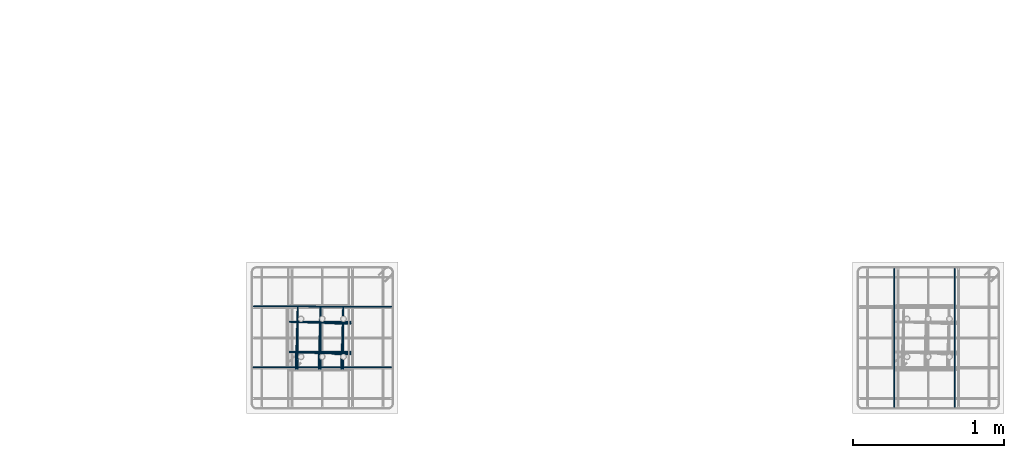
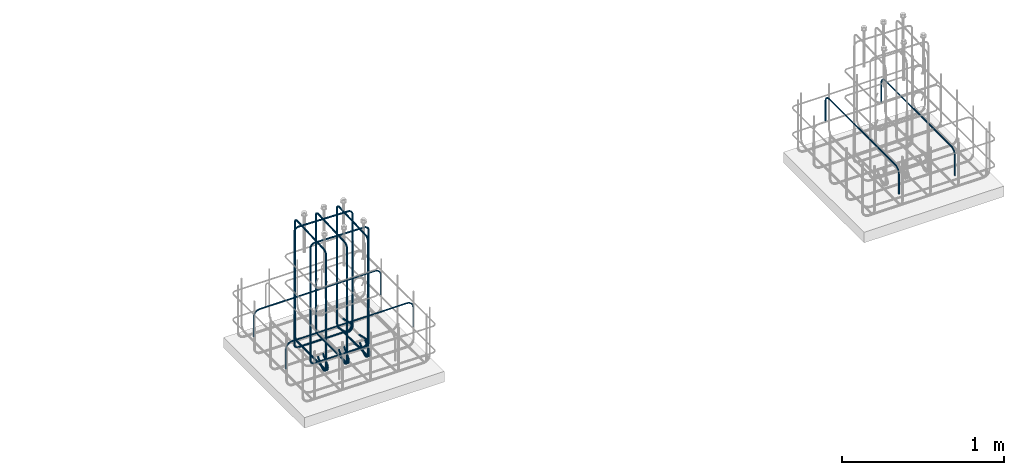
# One storey, part 8 of 12: 4 reinforcing bars.
"""IFC4X3_ADD2 building model written with IfcOpenShell, lengths in millimetres."""

from ifc_helpers import new_model, entity, si_unit, converted_unit, derived_unit, direction, frame, origin, place, context, subcontext, project, spatial, material, type_object, element, save


model = new_model("IFC4X3_ADD2")

# Units and contexts
model_context = context("Model", 3, precision=0.01, world=origin(), true_north=direction((6.123233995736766e-17, 1.0)))
plan_context = context("Plan", 3, precision=0.01, world=origin(), true_north=direction((6.123233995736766e-17, 1.0)))
body_context = subcontext(model_context, "Body", "Model", "MODEL_VIEW")
ifc_project = project(units=[si_unit("LENGTHUNIT", "METRE", prefix="MILLI"), converted_unit("PLANEANGLEUNIT", "DEGREE", entity("IfcPlaneAngleMeasure", 0.017453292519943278), si_unit("PLANEANGLEUNIT", "RADIAN"), dimensions=[0, 0, 0, 0, 0, 0, 0]), si_unit("AREAUNIT", "SQUARE_METRE"), si_unit("VOLUMEUNIT", "CUBIC_METRE"), derived_unit("THERMALTRANSMITTANCEUNIT", [(si_unit("MASSUNIT", "GRAM", prefix="KILO"), 1), (si_unit("THERMODYNAMICTEMPERATUREUNIT", "KELVIN"), -1), (si_unit("TIMEUNIT", "SECOND"), -3)]), derived_unit("USERDEFINED", [(si_unit("MASSUNIT", "GRAM", prefix="KILO"), 1), (si_unit("THERMODYNAMICTEMPERATUREUNIT", "KELVIN"), -1), (si_unit("TIMEUNIT", "SECOND"), -2)]), derived_unit("THERMALRESISTANCEUNIT", [(si_unit("MASSUNIT", "GRAM", prefix="KILO"), -1), (si_unit("TIMEUNIT", "SECOND"), 3), (si_unit("THERMODYNAMICTEMPERATUREUNIT", "KELVIN"), 1)]), si_unit("MASSUNIT", "GRAM", prefix="KILO"), derived_unit("MOMENTOFINERTIAUNIT", [(si_unit("LENGTHUNIT", "METRE"), 4)]), derived_unit("LINEARFORCEUNIT", [(si_unit("MASSUNIT", "GRAM", prefix="KILO"), 1), (si_unit("TIMEUNIT", "SECOND"), -2)]), derived_unit("WARPINGCONSTANTUNIT", [(si_unit("LENGTHUNIT", "METRE"), 6)]), si_unit("PRESSUREUNIT", "PASCAL"), derived_unit("MASSDENSITYUNIT", [(si_unit("MASSUNIT", "GRAM", prefix="KILO"), 1), (si_unit("LENGTHUNIT", "METRE"), -3)]), derived_unit("MODULUSOFELASTICITYUNIT", [(si_unit("MASSUNIT", "GRAM", prefix="KILO"), 1), (si_unit("TIMEUNIT", "SECOND"), -2), (si_unit("LENGTHUNIT", "METRE"), -1)]), derived_unit("THERMALEXPANSIONCOEFFICIENTUNIT", [(si_unit("THERMODYNAMICTEMPERATUREUNIT", "KELVIN"), -1)]), derived_unit("VAPORPERMEABILITYUNIT", [(si_unit("LENGTHUNIT", "METRE"), -1), (si_unit("TIMEUNIT", "SECOND"), 1)]), derived_unit("USERDEFINED", [(si_unit("MASSUNIT", "GRAM", prefix="KILO"), 1), (si_unit("TIMEUNIT", "SECOND"), -3), (si_unit("LENGTHUNIT", "METRE"), 3), (si_unit("ELECTRICCURRENTUNIT", "AMPERE"), -2)]), derived_unit("SPECIFICHEATCAPACITYUNIT", [(si_unit("THERMODYNAMICTEMPERATUREUNIT", "KELVIN"), -1), (si_unit("TIMEUNIT", "SECOND"), -2), (si_unit("LENGTHUNIT", "METRE"), 2)]), derived_unit("THERMALCONDUCTANCEUNIT", [(si_unit("MASSUNIT", "GRAM", prefix="KILO"), 1), (si_unit("THERMODYNAMICTEMPERATUREUNIT", "KELVIN"), -1), (si_unit("TIMEUNIT", "SECOND"), -3), (si_unit("LENGTHUNIT", "METRE"), 1)])], contexts=[model_context, plan_context])

# Site, building, storey
site_placement = place(None, origin())
site = spatial("IfcSite", under=ifc_project, at=site_placement, Name="Default", CompositionType="ELEMENT")
building_placement = place(site_placement, origin())
building = spatial("IfcBuilding", under=site, at=building_placement, Name="Complex structure", CompositionType="ELEMENT")
storey_placement = place(building_placement, frame((0.0, 0.0, -1200.0)))
storey = spatial("IfcBuildingStorey", under=building, at=storey_placement, Name="Level -03", CompositionType="ELEMENT", Elevation=-1200.0)

# Reinforcing bars
ifc_material = material(Name="Steel Rebar - B500A, B or C", Category="Unassigned")
reinforcing_bar_type_1 = type_object("IfcReinforcingBarType", Name="Rebar Bar:12mm", PredefinedType="NOTDEFINED")
reinforcing_bar_1_placement = place(storey_placement, origin())
ifc_direction_1 = entity("IfcDirection", [1.0, 0.0, 0.0])
ifc_direction_2 = entity("IfcDirection", [1.0, 0.0, 0.0])
ifc_direction_3 = entity("IfcDirection", [1.0, 0.0, 0.0])
element("IfcReinforcingBar", 1, at=reinforcing_bar_1_placement, inside=storey, type_object=reinforcing_bar_type_1, material=ifc_material, Name="Rebar Bar:12mm : Shape 52", ObjectType="Rebar Bar:12mm", context=body_context, shape_type="AdvancedSweptSolid", body=[
    entity("IfcSweptDiskSolid", entity("IfcCompositeCurve", [entity("IfcCompositeCurveSegment", "CONTINUOUS", True, entity("IfcPolyline", [entity("IfcCartesianPoint", [-5306.871550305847, -1426.8753259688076, 151.83199846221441]), entity("IfcCartesianPoint", [-5306.871550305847, -1477.787014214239, 100.92031021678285])])), entity("IfcCompositeCurveSegment", "CONTINUOUS", True, entity("IfcTrimmedCurve", entity("IfcCircle", entity("IfcAxis2Placement3D", entity("IfcCartesianPoint", [-5306.871550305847, -1455.8667039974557, 79.0]), ifc_direction_1, entity("IfcDirection", [0.0, -0.7071067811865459, -0.7071067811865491])), 31.0), [entity("IfcParameterValue", 269.9999999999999)], [entity("IfcParameterValue", 44.99999999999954)], True, "PARAMETER")), entity("IfcCompositeCurveSegment", "CONTINUOUS", True, entity("IfcPolyline", [entity("IfcCartesianPoint", [-5306.871550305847, -1455.8667039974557, 48.0]), entity("IfcCartesianPoint", [-5306.871550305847, -1109.866703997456, 48.0])])), entity("IfcCompositeCurveSegment", "CONTINUOUS", True, entity("IfcTrimmedCurve", entity("IfcCircle", entity("IfcAxis2Placement3D", entity("IfcCartesianPoint", [-5306.871550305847, -1109.866703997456, 79.0]), ifc_direction_1, entity("IfcDirection", [0.0, 1.0, 0.0])), 31.0), [entity("IfcParameterValue", 269.9999999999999)], [entity("IfcParameterValue", 360.00000000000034)], True, "PARAMETER")), entity("IfcCompositeCurveSegment", "CONTINUOUS", True, entity("IfcPolyline", [entity("IfcCartesianPoint", [-5306.871550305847, -1078.866703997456, 79.0]), entity("IfcCartesianPoint", [-5306.871550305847, -1078.866703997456, 930.0])])), entity("IfcCompositeCurveSegment", "CONTINUOUS", True, entity("IfcTrimmedCurve", entity("IfcCircle", entity("IfcAxis2Placement3D", entity("IfcCartesianPoint", [-5307.782920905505, -1109.8533043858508, 930.0]), entity("IfcDirection", [0.9995677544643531, -0.02939905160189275, 0.0]), entity("IfcDirection", [0.0, 0.0, 1.0])), 31.0), [entity("IfcParameterValue", 269.9999999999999)], [entity("IfcParameterValue", 360.00000000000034)], True, "PARAMETER")), entity("IfcCompositeCurveSegment", "CONTINUOUS", True, entity("IfcPolyline", [entity("IfcCartesianPoint", [-5307.782920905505, -1109.8533043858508, 961.0]), entity("IfcCartesianPoint", [-5317.960179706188, -1455.8801036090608, 961.0])])), entity("IfcCompositeCurveSegment", "CONTINUOUS", True, entity("IfcTrimmedCurve", entity("IfcCircle", entity("IfcAxis2Placement3D", entity("IfcCartesianPoint", [-5317.960179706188, -1455.8801036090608, 930.0]), entity("IfcDirection", [0.9995677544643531, -0.02939905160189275, 0.0]), entity("IfcDirection", [-0.02939905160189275, -0.9995677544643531, 0.0])), 31.0), [entity("IfcParameterValue", 269.9999999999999)], [entity("IfcParameterValue", 360.00000000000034)], True, "PARAMETER")), entity("IfcCompositeCurveSegment", "CONTINUOUS", True, entity("IfcPolyline", [entity("IfcCartesianPoint", [-5318.871550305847, -1486.8667039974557, 930.0]), entity("IfcCartesianPoint", [-5318.871550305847, -1486.8667039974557, 79.0])])), entity("IfcCompositeCurveSegment", "CONTINUOUS", True, entity("IfcTrimmedCurve", entity("IfcCircle", entity("IfcAxis2Placement3D", entity("IfcCartesianPoint", [-5318.871550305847, -1455.8667039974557, 79.0]), ifc_direction_1, entity("IfcDirection", [0.0, 0.0, -1.0])), 31.0), [entity("IfcParameterValue", 269.9999999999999)], [entity("IfcParameterValue", 44.99999999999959)], True, "PARAMETER")), entity("IfcCompositeCurveSegment", "CONTINUOUS", True, entity("IfcPolyline", [entity("IfcCartesianPoint", [-5318.871550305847, -1433.9463937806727, 57.0796897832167]), entity("IfcCartesianPoint", [-5318.871550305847, -1383.034705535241, 107.99137802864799])]))], False), 6.0, None, 0.0, 546.0000000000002),
    entity("IfcSweptDiskSolid", entity("IfcCompositeCurve", [entity("IfcCompositeCurveSegment", "CONTINUOUS", True, entity("IfcPolyline", [entity("IfcCartesianPoint", [-5156.871550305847, -1426.8753259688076, 151.83199846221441]), entity("IfcCartesianPoint", [-5156.871550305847, -1477.787014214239, 100.92031021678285])])), entity("IfcCompositeCurveSegment", "CONTINUOUS", True, entity("IfcTrimmedCurve", entity("IfcCircle", entity("IfcAxis2Placement3D", entity("IfcCartesianPoint", [-5156.871550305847, -1455.8667039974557, 79.0]), ifc_direction_2, entity("IfcDirection", [0.0, -0.7071067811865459, -0.7071067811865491])), 31.0), [entity("IfcParameterValue", 269.9999999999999)], [entity("IfcParameterValue", 44.99999999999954)], True, "PARAMETER")), entity("IfcCompositeCurveSegment", "CONTINUOUS", True, entity("IfcPolyline", [entity("IfcCartesianPoint", [-5156.871550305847, -1455.8667039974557, 48.0]), entity("IfcCartesianPoint", [-5156.871550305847, -1109.866703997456, 48.0])])), entity("IfcCompositeCurveSegment", "CONTINUOUS", True, entity("IfcTrimmedCurve", entity("IfcCircle", entity("IfcAxis2Placement3D", entity("IfcCartesianPoint", [-5156.871550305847, -1109.866703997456, 79.0]), ifc_direction_2, entity("IfcDirection", [0.0, 1.0, 0.0])), 31.0), [entity("IfcParameterValue", 269.9999999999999)], [entity("IfcParameterValue", 360.00000000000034)], True, "PARAMETER")), entity("IfcCompositeCurveSegment", "CONTINUOUS", True, entity("IfcPolyline", [entity("IfcCartesianPoint", [-5156.871550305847, -1078.866703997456, 79.0]), entity("IfcCartesianPoint", [-5156.871550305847, -1078.866703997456, 930.0])])), entity("IfcCompositeCurveSegment", "CONTINUOUS", True, entity("IfcTrimmedCurve", entity("IfcCircle", entity("IfcAxis2Placement3D", entity("IfcCartesianPoint", [-5157.782920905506, -1109.8533043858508, 930.0]), entity("IfcDirection", [0.9995677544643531, -0.02939905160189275, 0.0]), entity("IfcDirection", [0.0, 0.0, 1.0])), 31.0), [entity("IfcParameterValue", 269.9999999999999)], [entity("IfcParameterValue", 360.00000000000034)], True, "PARAMETER")), entity("IfcCompositeCurveSegment", "CONTINUOUS", True, entity("IfcPolyline", [entity("IfcCartesianPoint", [-5157.782920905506, -1109.8533043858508, 961.0]), entity("IfcCartesianPoint", [-5167.960179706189, -1455.8801036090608, 961.0])])), entity("IfcCompositeCurveSegment", "CONTINUOUS", True, entity("IfcTrimmedCurve", entity("IfcCircle", entity("IfcAxis2Placement3D", entity("IfcCartesianPoint", [-5167.960179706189, -1455.8801036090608, 930.0]), entity("IfcDirection", [0.9995677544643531, -0.02939905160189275, 0.0]), entity("IfcDirection", [-0.02939905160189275, -0.9995677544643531, 0.0])), 31.0), [entity("IfcParameterValue", 269.9999999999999)], [entity("IfcParameterValue", 360.00000000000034)], True, "PARAMETER")), entity("IfcCompositeCurveSegment", "CONTINUOUS", True, entity("IfcPolyline", [entity("IfcCartesianPoint", [-5168.8715503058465, -1486.8667039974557, 930.0]), entity("IfcCartesianPoint", [-5168.8715503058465, -1486.8667039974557, 79.0])])), entity("IfcCompositeCurveSegment", "CONTINUOUS", True, entity("IfcTrimmedCurve", entity("IfcCircle", entity("IfcAxis2Placement3D", entity("IfcCartesianPoint", [-5168.8715503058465, -1455.8667039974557, 79.0]), ifc_direction_2, entity("IfcDirection", [0.0, 0.0, -1.0])), 31.0), [entity("IfcParameterValue", 269.9999999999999)], [entity("IfcParameterValue", 44.99999999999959)], True, "PARAMETER")), entity("IfcCompositeCurveSegment", "CONTINUOUS", True, entity("IfcPolyline", [entity("IfcCartesianPoint", [-5168.8715503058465, -1433.9463937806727, 57.0796897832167]), entity("IfcCartesianPoint", [-5168.8715503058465, -1383.034705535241, 107.99137802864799])]))], False), 6.0, None, 0.0, 546.0000000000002),
    entity("IfcSweptDiskSolid", entity("IfcCompositeCurve", [entity("IfcCompositeCurveSegment", "CONTINUOUS", True, entity("IfcPolyline", [entity("IfcCartesianPoint", [-5006.8715503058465, -1426.8753259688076, 151.83199846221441]), entity("IfcCartesianPoint", [-5006.8715503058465, -1477.787014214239, 100.92031021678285])])), entity("IfcCompositeCurveSegment", "CONTINUOUS", True, entity("IfcTrimmedCurve", entity("IfcCircle", entity("IfcAxis2Placement3D", entity("IfcCartesianPoint", [-5006.8715503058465, -1455.8667039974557, 79.0]), ifc_direction_3, entity("IfcDirection", [0.0, -0.7071067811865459, -0.7071067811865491])), 31.0), [entity("IfcParameterValue", 269.9999999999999)], [entity("IfcParameterValue", 44.99999999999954)], True, "PARAMETER")), entity("IfcCompositeCurveSegment", "CONTINUOUS", True, entity("IfcPolyline", [entity("IfcCartesianPoint", [-5006.8715503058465, -1455.8667039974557, 48.0]), entity("IfcCartesianPoint", [-5006.8715503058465, -1109.866703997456, 48.0])])), entity("IfcCompositeCurveSegment", "CONTINUOUS", True, entity("IfcTrimmedCurve", entity("IfcCircle", entity("IfcAxis2Placement3D", entity("IfcCartesianPoint", [-5006.8715503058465, -1109.866703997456, 79.0]), ifc_direction_3, entity("IfcDirection", [0.0, 1.0, 0.0])), 31.0), [entity("IfcParameterValue", 269.9999999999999)], [entity("IfcParameterValue", 360.00000000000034)], True, "PARAMETER")), entity("IfcCompositeCurveSegment", "CONTINUOUS", True, entity("IfcPolyline", [entity("IfcCartesianPoint", [-5006.8715503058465, -1078.866703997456, 79.0]), entity("IfcCartesianPoint", [-5006.8715503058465, -1078.866703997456, 930.0])])), entity("IfcCompositeCurveSegment", "CONTINUOUS", True, entity("IfcTrimmedCurve", entity("IfcCircle", entity("IfcAxis2Placement3D", entity("IfcCartesianPoint", [-5007.782920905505, -1109.8533043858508, 930.0]), entity("IfcDirection", [0.9995677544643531, -0.02939905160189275, 0.0]), entity("IfcDirection", [0.0, 0.0, 1.0])), 31.0), [entity("IfcParameterValue", 269.9999999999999)], [entity("IfcParameterValue", 360.00000000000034)], True, "PARAMETER")), entity("IfcCompositeCurveSegment", "CONTINUOUS", True, entity("IfcPolyline", [entity("IfcCartesianPoint", [-5007.782920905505, -1109.8533043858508, 961.0]), entity("IfcCartesianPoint", [-5017.960179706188, -1455.8801036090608, 961.0])])), entity("IfcCompositeCurveSegment", "CONTINUOUS", True, entity("IfcTrimmedCurve", entity("IfcCircle", entity("IfcAxis2Placement3D", entity("IfcCartesianPoint", [-5017.960179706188, -1455.8801036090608, 930.0]), entity("IfcDirection", [0.9995677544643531, -0.02939905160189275, 0.0]), entity("IfcDirection", [-0.02939905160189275, -0.9995677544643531, 0.0])), 31.0), [entity("IfcParameterValue", 269.9999999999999)], [entity("IfcParameterValue", 360.00000000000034)], True, "PARAMETER")), entity("IfcCompositeCurveSegment", "CONTINUOUS", True, entity("IfcPolyline", [entity("IfcCartesianPoint", [-5018.871550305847, -1486.8667039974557, 930.0]), entity("IfcCartesianPoint", [-5018.871550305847, -1486.8667039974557, 79.0])])), entity("IfcCompositeCurveSegment", "CONTINUOUS", True, entity("IfcTrimmedCurve", entity("IfcCircle", entity("IfcAxis2Placement3D", entity("IfcCartesianPoint", [-5018.871550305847, -1455.8667039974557, 79.0]), ifc_direction_3, entity("IfcDirection", [0.0, 0.0, -1.0])), 31.0), [entity("IfcParameterValue", 269.9999999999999)], [entity("IfcParameterValue", 44.99999999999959)], True, "PARAMETER")), entity("IfcCompositeCurveSegment", "CONTINUOUS", True, entity("IfcPolyline", [entity("IfcCartesianPoint", [-5018.871550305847, -1433.9463937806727, 57.0796897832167]), entity("IfcCartesianPoint", [-5018.871550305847, -1383.034705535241, 107.99137802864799])]))], False), 6.0, None, 0.0, 546.0000000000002),
])
reinforcing_bar_2_placement = place(storey_placement, origin())
ifc_direction_4 = entity("IfcDirection", [0.0, 1.0, 0.0])
ifc_direction_5 = entity("IfcDirection", [0.0, 1.0, 0.0])
element("IfcReinforcingBar", 2, at=reinforcing_bar_2_placement, inside=storey, type_object=reinforcing_bar_type_1, material=ifc_material, Name="Rebar Bar:12mm : Shape 52", ObjectType="Rebar Bar:12mm", context=body_context, shape_type="AdvancedSweptSolid", body=[
    entity("IfcSweptDiskSolid", entity("IfcCompositeCurve", [entity("IfcCompositeCurveSegment", "CONTINUOUS", True, entity("IfcPolyline", [entity("IfcCartesianPoint", [-5018.862928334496, -1376.866703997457, 161.83199846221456]), entity("IfcCartesianPoint", [-4967.951240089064, -1376.8667039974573, 110.92031021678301])])), entity("IfcCompositeCurveSegment", "CONTINUOUS", True, entity("IfcTrimmedCurve", entity("IfcCircle", entity("IfcAxis2Placement3D", entity("IfcCartesianPoint", [-4989.871550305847, -1376.8667039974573, 89.0]), ifc_direction_4, entity("IfcDirection", [0.7071067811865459, 0.0, -0.7071067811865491])), 31.0), [entity("IfcParameterValue", 269.9999999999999)], [entity("IfcParameterValue", 44.99999999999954)], True, "PARAMETER")), entity("IfcCompositeCurveSegment", "CONTINUOUS", True, entity("IfcPolyline", [entity("IfcCartesianPoint", [-4989.871550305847, -1376.8667039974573, 58.0]), entity("IfcCartesianPoint", [-5335.871550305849, -1376.8667039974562, 58.0])])), entity("IfcCompositeCurveSegment", "CONTINUOUS", True, entity("IfcTrimmedCurve", entity("IfcCircle", entity("IfcAxis2Placement3D", entity("IfcCartesianPoint", [-5335.871550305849, -1376.8667039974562, 89.0]), ifc_direction_4, entity("IfcDirection", [-1.0, 0.0, 0.0])), 31.0), [entity("IfcParameterValue", 269.9999999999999)], [entity("IfcParameterValue", 360.00000000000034)], True, "PARAMETER")), entity("IfcCompositeCurveSegment", "CONTINUOUS", True, entity("IfcPolyline", [entity("IfcCartesianPoint", [-5366.871550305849, -1376.8667039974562, 89.0]), entity("IfcCartesianPoint", [-5366.871550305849, -1376.8667039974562, 938.0])])), entity("IfcCompositeCurveSegment", "CONTINUOUS", True, entity("IfcTrimmedCurve", entity("IfcCircle", entity("IfcAxis2Placement3D", entity("IfcCartesianPoint", [-5335.884949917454, -1377.778074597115, 938.0]), entity("IfcDirection", [0.029399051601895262, 0.9995677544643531, 0.0]), entity("IfcDirection", [0.0, 0.0, 1.0])), 31.0), [entity("IfcParameterValue", 269.9999999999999)], [entity("IfcParameterValue", 360.00000000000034)], True, "PARAMETER")), entity("IfcCompositeCurveSegment", "CONTINUOUS", True, entity("IfcPolyline", [entity("IfcCartesianPoint", [-5335.884949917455, -1377.778074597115, 969.0]), entity("IfcCartesianPoint", [-4989.858150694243, -1387.9553333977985, 969.0])])), entity("IfcCompositeCurveSegment", "CONTINUOUS", True, entity("IfcTrimmedCurve", entity("IfcCircle", entity("IfcAxis2Placement3D", entity("IfcCartesianPoint", [-4989.858150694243, -1387.9553333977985, 938.0]), entity("IfcDirection", [0.029399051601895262, 0.9995677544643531, 0.0]), entity("IfcDirection", [0.9995677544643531, -0.029399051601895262, 0.0])), 31.0), [entity("IfcParameterValue", 269.9999999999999)], [entity("IfcParameterValue", 360.00000000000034)], True, "PARAMETER")), entity("IfcCompositeCurveSegment", "CONTINUOUS", True, entity("IfcPolyline", [entity("IfcCartesianPoint", [-4958.871550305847, -1388.8667039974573, 938.0]), entity("IfcCartesianPoint", [-4958.871550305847, -1388.8667039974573, 89.0])])), entity("IfcCompositeCurveSegment", "CONTINUOUS", True, entity("IfcTrimmedCurve", entity("IfcCircle", entity("IfcAxis2Placement3D", entity("IfcCartesianPoint", [-4989.871550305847, -1388.8667039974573, 89.0]), ifc_direction_4, entity("IfcDirection", [0.0, 0.0, -1.0])), 31.0), [entity("IfcParameterValue", 269.9999999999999)], [entity("IfcParameterValue", 44.99999999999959)], True, "PARAMETER")), entity("IfcCompositeCurveSegment", "CONTINUOUS", True, entity("IfcPolyline", [entity("IfcCartesianPoint", [-5011.7918605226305, -1388.8667039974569, 67.07968978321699]), entity("IfcCartesianPoint", [-5062.703548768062, -1388.8667039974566, 117.99137802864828])]))], False), 6.0, None, 0.0, 546.0000000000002),
    entity("IfcSweptDiskSolid", entity("IfcCompositeCurve", [entity("IfcCompositeCurveSegment", "CONTINUOUS", True, entity("IfcPolyline", [entity("IfcCartesianPoint", [-5018.862928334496, -1176.866703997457, 161.83199846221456]), entity("IfcCartesianPoint", [-4967.951240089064, -1176.8667039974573, 110.92031021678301])])), entity("IfcCompositeCurveSegment", "CONTINUOUS", True, entity("IfcTrimmedCurve", entity("IfcCircle", entity("IfcAxis2Placement3D", entity("IfcCartesianPoint", [-4989.871550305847, -1176.8667039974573, 89.0]), ifc_direction_5, entity("IfcDirection", [0.7071067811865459, 0.0, -0.7071067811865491])), 31.0), [entity("IfcParameterValue", 269.9999999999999)], [entity("IfcParameterValue", 44.99999999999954)], True, "PARAMETER")), entity("IfcCompositeCurveSegment", "CONTINUOUS", True, entity("IfcPolyline", [entity("IfcCartesianPoint", [-4989.871550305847, -1176.866703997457, 58.0]), entity("IfcCartesianPoint", [-5335.871550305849, -1176.8667039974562, 58.0])])), entity("IfcCompositeCurveSegment", "CONTINUOUS", True, entity("IfcTrimmedCurve", entity("IfcCircle", entity("IfcAxis2Placement3D", entity("IfcCartesianPoint", [-5335.871550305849, -1176.8667039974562, 89.0]), ifc_direction_5, entity("IfcDirection", [-1.0, 0.0, 0.0])), 31.0), [entity("IfcParameterValue", 269.9999999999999)], [entity("IfcParameterValue", 360.00000000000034)], True, "PARAMETER")), entity("IfcCompositeCurveSegment", "CONTINUOUS", True, entity("IfcPolyline", [entity("IfcCartesianPoint", [-5366.871550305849, -1176.8667039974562, 89.0]), entity("IfcCartesianPoint", [-5366.871550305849, -1176.8667039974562, 938.0])])), entity("IfcCompositeCurveSegment", "CONTINUOUS", True, entity("IfcTrimmedCurve", entity("IfcCircle", entity("IfcAxis2Placement3D", entity("IfcCartesianPoint", [-5335.884949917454, -1177.778074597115, 938.0]), entity("IfcDirection", [0.029399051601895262, 0.9995677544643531, 0.0]), entity("IfcDirection", [0.0, 0.0, 1.0])), 31.0), [entity("IfcParameterValue", 269.9999999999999)], [entity("IfcParameterValue", 360.00000000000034)], True, "PARAMETER")), entity("IfcCompositeCurveSegment", "CONTINUOUS", True, entity("IfcPolyline", [entity("IfcCartesianPoint", [-5335.884949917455, -1177.778074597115, 969.0]), entity("IfcCartesianPoint", [-4989.858150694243, -1187.9553333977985, 969.0])])), entity("IfcCompositeCurveSegment", "CONTINUOUS", True, entity("IfcTrimmedCurve", entity("IfcCircle", entity("IfcAxis2Placement3D", entity("IfcCartesianPoint", [-4989.858150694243, -1187.9553333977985, 938.0]), entity("IfcDirection", [0.029399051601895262, 0.9995677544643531, 0.0]), entity("IfcDirection", [0.9995677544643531, -0.029399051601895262, 0.0])), 31.0), [entity("IfcParameterValue", 269.9999999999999)], [entity("IfcParameterValue", 360.00000000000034)], True, "PARAMETER")), entity("IfcCompositeCurveSegment", "CONTINUOUS", True, entity("IfcPolyline", [entity("IfcCartesianPoint", [-4958.871550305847, -1188.8667039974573, 938.0]), entity("IfcCartesianPoint", [-4958.871550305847, -1188.8667039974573, 89.0])])), entity("IfcCompositeCurveSegment", "CONTINUOUS", True, entity("IfcTrimmedCurve", entity("IfcCircle", entity("IfcAxis2Placement3D", entity("IfcCartesianPoint", [-4989.871550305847, -1188.8667039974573, 89.0]), ifc_direction_5, entity("IfcDirection", [0.0, 0.0, -1.0])), 31.0), [entity("IfcParameterValue", 269.9999999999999)], [entity("IfcParameterValue", 44.99999999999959)], True, "PARAMETER")), entity("IfcCompositeCurveSegment", "CONTINUOUS", True, entity("IfcPolyline", [entity("IfcCartesianPoint", [-5011.7918605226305, -1188.8667039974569, 67.07968978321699]), entity("IfcCartesianPoint", [-5062.703548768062, -1188.8667039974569, 117.99137802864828])]))], False), 6.0, None, 0.0, 546.0000000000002),
])
reinforcing_bar_type_2 = type_object("IfcReinforcingBarType", Name="Rebar Bar:10mm", PredefinedType="NOTDEFINED")
reinforcing_bar_3_placement = place(storey_placement, origin())
element("IfcReinforcingBar", 3, at=reinforcing_bar_3_placement, inside=storey, type_object=reinforcing_bar_type_2, material=ifc_material, Name="Rebar Bar:10mm : Shape 21", ObjectType="Rebar Bar:10mm", context=body_context, shape_type="AdvancedSweptSolid", body=[
    entity("IfcSweptDiskSolid", entity("IfcCompositeCurve", [entity("IfcCompositeCurveSegment", "CONTINUOUS", True, entity("IfcPolyline", [entity("IfcCartesianPoint", [-4691.348637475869, -1476.1953828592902, 167.0]), entity("IfcCartesianPoint", [-4691.3486374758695, -1476.1953828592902, 316.0])])), entity("IfcCompositeCurveSegment", "CONTINUOUS", True, entity("IfcTrimmedCurve", entity("IfcCircle", entity("IfcAxis2Placement3D", entity("IfcCartesianPoint", [-4736.348631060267, -1476.1713536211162, 316.0]), entity("IfcDirection", [-0.0005339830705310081, -0.99999985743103, 0.0]), entity("IfcDirection", [0.0, 0.0, 1.0])), 45.0), [entity("IfcParameterValue", 269.9999999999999)], [entity("IfcParameterValue", 360.00000000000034)], True, "PARAMETER")), entity("IfcCompositeCurveSegment", "CONTINUOUS", True, entity("IfcPolyline", [entity("IfcCartesianPoint", [-4736.348631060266, -1476.1713536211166, 361.0]), entity("IfcCartesianPoint", [-5554.348255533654, -1475.734555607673, 361.0])])), entity("IfcCompositeCurveSegment", "CONTINUOUS", True, entity("IfcTrimmedCurve", entity("IfcCircle", entity("IfcAxis2Placement3D", entity("IfcCartesianPoint", [-5554.348255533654, -1475.734555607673, 316.0]), entity("IfcDirection", [-0.0005339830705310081, -0.99999985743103, 0.0]), entity("IfcDirection", [-0.99999985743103, 0.0005339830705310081, 0.0])), 45.0), [entity("IfcParameterValue", 269.9999999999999)], [entity("IfcParameterValue", 360.00000000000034)], True, "PARAMETER")), entity("IfcCompositeCurveSegment", "CONTINUOUS", True, entity("IfcPolyline", [entity("IfcCartesianPoint", [-5599.34824911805, -1475.7105263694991, 316.0]), entity("IfcCartesianPoint", [-5599.348249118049, -1475.7105263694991, 167.0])]))], False), 5.0, None, 0.0, 183.00000000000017),
    entity("IfcSweptDiskSolid", entity("IfcCompositeCurve", [entity("IfcCompositeCurveSegment", "CONTINUOUS", True, entity("IfcPolyline", [entity("IfcCartesianPoint", [-4691.135044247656, -1076.1954398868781, 167.0]), entity("IfcCartesianPoint", [-4691.135044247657, -1076.1954398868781, 316.0])])), entity("IfcCompositeCurveSegment", "CONTINUOUS", True, entity("IfcTrimmedCurve", entity("IfcCircle", entity("IfcAxis2Placement3D", entity("IfcCartesianPoint", [-4736.135037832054, -1076.1714106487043, 316.0]), entity("IfcDirection", [-0.0005339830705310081, -0.99999985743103, 0.0]), entity("IfcDirection", [0.0, 0.0, 1.0])), 45.0), [entity("IfcParameterValue", 269.9999999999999)], [entity("IfcParameterValue", 360.00000000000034)], True, "PARAMETER")), entity("IfcCompositeCurveSegment", "CONTINUOUS", True, entity("IfcPolyline", [entity("IfcCartesianPoint", [-4736.135037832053, -1076.1714106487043, 361.0]), entity("IfcCartesianPoint", [-5554.134662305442, -1075.734612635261, 361.0])])), entity("IfcCompositeCurveSegment", "CONTINUOUS", True, entity("IfcTrimmedCurve", entity("IfcCircle", entity("IfcAxis2Placement3D", entity("IfcCartesianPoint", [-5554.134662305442, -1075.734612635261, 316.0]), entity("IfcDirection", [-0.0005339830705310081, -0.99999985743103, 0.0]), entity("IfcDirection", [-0.99999985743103, 0.0005339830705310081, 0.0])), 45.0), [entity("IfcParameterValue", 269.9999999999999)], [entity("IfcParameterValue", 360.00000000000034)], True, "PARAMETER")), entity("IfcCompositeCurveSegment", "CONTINUOUS", True, entity("IfcPolyline", [entity("IfcCartesianPoint", [-5599.1346558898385, -1075.710583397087, 316.0]), entity("IfcCartesianPoint", [-5599.134655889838, -1075.710583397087, 167.0])]))], False), 5.0, None, 0.0, 183.00000000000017),
])
reinforcing_bar_4_placement = place(storey_placement, origin())
ifc_direction_6 = entity("IfcDirection", [1.0, 0.0, 0.0])
ifc_direction_7 = entity("IfcDirection", [1.0, 0.0, 0.0])
element("IfcReinforcingBar", 4, at=reinforcing_bar_4_placement, inside=storey, type_object=reinforcing_bar_type_2, material=ifc_material, Name="Rebar Bar:10mm : Shape 21", ObjectType="Rebar Bar:10mm", context=body_context, shape_type="AdvancedSweptSolid", body=[
    entity("IfcSweptDiskSolid", entity("IfcCompositeCurve", [entity("IfcCompositeCurveSegment", "CONTINUOUS", True, entity("IfcPolyline", [entity("IfcCartesianPoint", [-969.8715503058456, -827.8667039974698, 167.0]), entity("IfcCartesianPoint", [-969.8715503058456, -827.8667039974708, 315.0])])), entity("IfcCompositeCurveSegment", "CONTINUOUS", True, entity("IfcTrimmedCurve", entity("IfcCircle", entity("IfcAxis2Placement3D", entity("IfcCartesianPoint", [-969.8715503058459, -872.8667039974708, 315.0]), ifc_direction_6, entity("IfcDirection", [0.0, 0.0, 1.0])), 45.0), [entity("IfcParameterValue", 269.9999999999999)], [entity("IfcParameterValue", 360.00000000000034)], True, "PARAMETER")), entity("IfcCompositeCurveSegment", "CONTINUOUS", True, entity("IfcPolyline", [entity("IfcCartesianPoint", [-969.8715503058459, -872.8667039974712, 360.0]), entity("IfcCartesianPoint", [-969.8715503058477, -1692.8667039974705, 360.0])])), entity("IfcCompositeCurveSegment", "CONTINUOUS", True, entity("IfcTrimmedCurve", entity("IfcCircle", entity("IfcAxis2Placement3D", entity("IfcCartesianPoint", [-969.8715503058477, -1692.8667039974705, 315.0]), ifc_direction_6, entity("IfcDirection", [0.0, -1.0, 0.0])), 45.0), [entity("IfcParameterValue", 269.9999999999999)], [entity("IfcParameterValue", 360.00000000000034)], True, "PARAMETER")), entity("IfcCompositeCurveSegment", "CONTINUOUS", True, entity("IfcPolyline", [entity("IfcCartesianPoint", [-969.8715503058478, -1737.8667039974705, 315.0]), entity("IfcCartesianPoint", [-969.8715503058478, -1737.8667039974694, 167.0])]))], False), 5.0, None, 0.0, 183.00000000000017),
    entity("IfcSweptDiskSolid", entity("IfcCompositeCurve", [entity("IfcCompositeCurveSegment", "CONTINUOUS", True, entity("IfcPolyline", [entity("IfcCartesianPoint", [-1369.8715503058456, -827.8667039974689, 167.0]), entity("IfcCartesianPoint", [-1369.8715503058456, -827.8667039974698, 315.0])])), entity("IfcCompositeCurveSegment", "CONTINUOUS", True, entity("IfcTrimmedCurve", entity("IfcCircle", entity("IfcAxis2Placement3D", entity("IfcCartesianPoint", [-1369.8715503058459, -872.8667039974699, 315.0]), ifc_direction_7, entity("IfcDirection", [0.0, 0.0, 1.0])), 45.0), [entity("IfcParameterValue", 269.9999999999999)], [entity("IfcParameterValue", 360.00000000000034)], True, "PARAMETER")), entity("IfcCompositeCurveSegment", "CONTINUOUS", True, entity("IfcPolyline", [entity("IfcCartesianPoint", [-1369.8715503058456, -872.8667039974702, 360.0]), entity("IfcCartesianPoint", [-1369.871550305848, -1692.8667039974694, 360.0])])), entity("IfcCompositeCurveSegment", "CONTINUOUS", True, entity("IfcTrimmedCurve", entity("IfcCircle", entity("IfcAxis2Placement3D", entity("IfcCartesianPoint", [-1369.8715503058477, -1692.8667039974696, 315.0]), ifc_direction_7, entity("IfcDirection", [0.0, -1.0, 0.0])), 45.0), [entity("IfcParameterValue", 269.9999999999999)], [entity("IfcParameterValue", 360.00000000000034)], True, "PARAMETER")), entity("IfcCompositeCurveSegment", "CONTINUOUS", True, entity("IfcPolyline", [entity("IfcCartesianPoint", [-1369.871550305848, -1737.8667039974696, 315.0]), entity("IfcCartesianPoint", [-1369.871550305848, -1737.8667039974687, 167.0])]))], False), 5.0, None, 0.0, 183.00000000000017),
])

save(model, "model.ifc")
